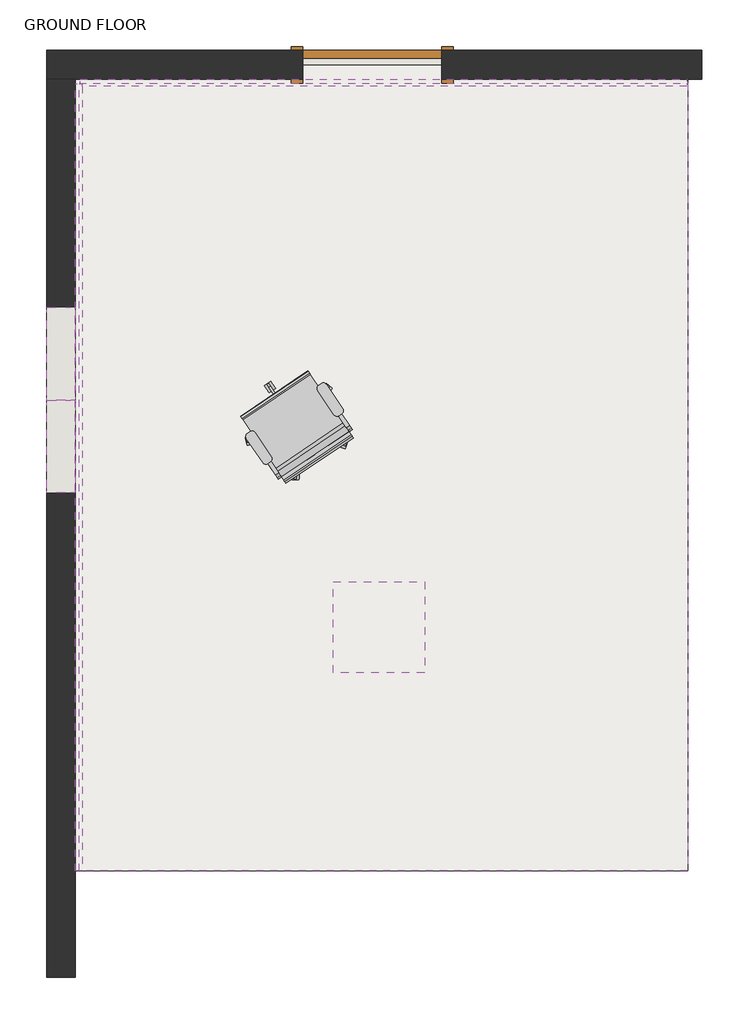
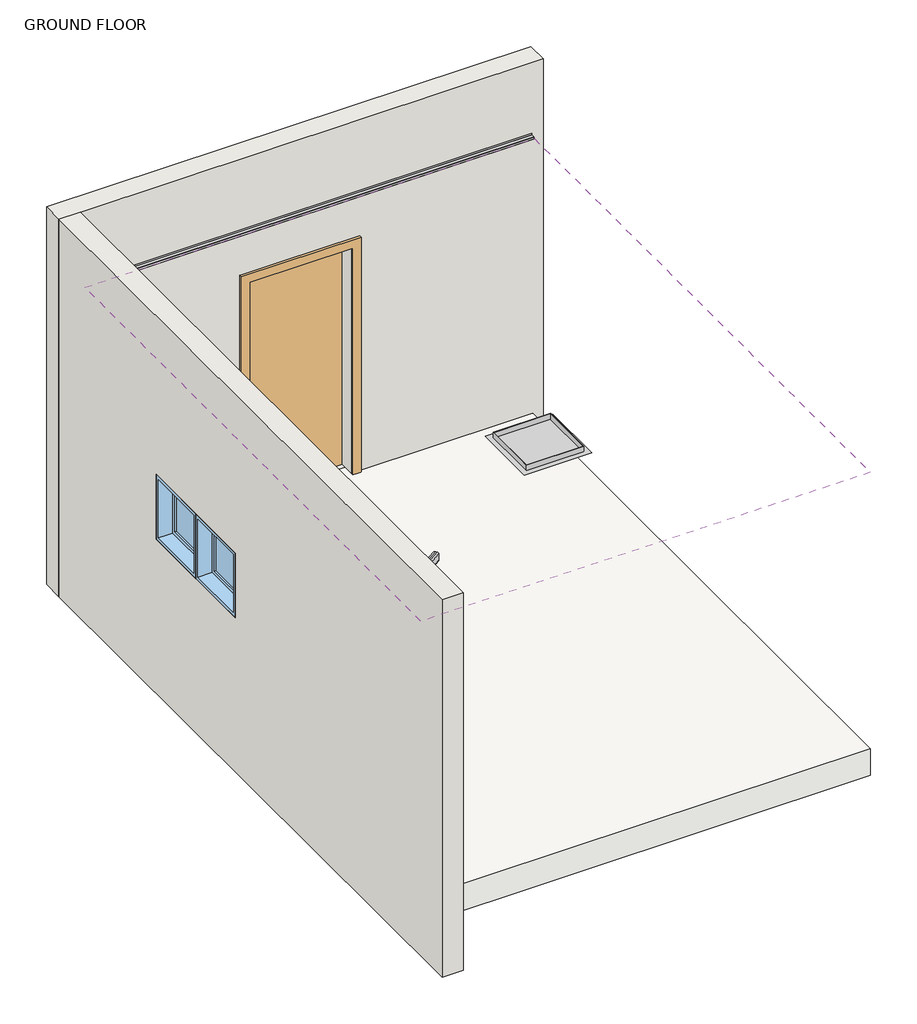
# One storey, incomplete: 3 proxies, 2 walls, 2 windows, 1 covering, 1 door, 1 furniture element, 1 slab.
"""IFC4 building model written with IfcOpenShell, lengths in millimetres."""

from ifc_helpers import new_model, si_unit, frame, origin, place, context, project, spatial, polyline, outline, extrude, faceted_brep, transform, mapped, element, save
from components import m_single_flush_0915_x_2134mm_f5238887, chair_task_arms_chair_task_arms_3b363349, m_fixed_0610_x_0610mm_09852ef8

model = new_model("IFC4")

# Units and contexts
model_context = context("Model", 3, world=origin())
ifc_project = project(units=[si_unit("LENGTHUNIT", "METRE", prefix="MILLI")], contexts=[model_context])

# Site, building, storey
site = spatial("IfcSite", under=ifc_project)
building = spatial("IfcBuilding", under=site)
storey = spatial("IfcBuildingStorey", under=building, Name="GROUND FLOOR", Elevation=0.0)

# Proxies
placement = place(None, origin())
element("IfcBuildingElementProxy", 1, Name="Ceiling_Access_HatchPanel_Parametric : Top Hung", ObjectType="Ceiling_Access_HatchPanel_Parametric : Top Hung", at=placement, inside=storey, context=model_context, shape_type="SolidModel", body=[
    faceted_brep([(122182.6212716, 2869.9489557, 2650.0), (122182.6212716, 2359.2489557, 2650.0), (122693.3212716, 2359.2489557, 2650.0), (122693.3212716, 2869.9489557, 2650.0), (122188.9712716, 2863.5989557, 2650.0), (122686.9712716, 2863.5989557, 2650.0), (122686.9712716, 2365.5989557, 2650.0), (122188.9712716, 2365.5989557, 2650.0), (122182.6212716, 2869.9489557, 2600.0), (122693.3212716, 2869.9489557, 2600.0), (122693.3212716, 2359.2489557, 2600.0), (122182.6212716, 2359.2489557, 2600.0), (122188.9712716, 2863.5989557, 2600.0), (122188.9712716, 2365.5989557, 2600.0), (122686.9712716, 2365.5989557, 2600.0), (122686.9712716, 2863.5989557, 2600.0), (122182.6212716, 2869.9489557, 2611.0), (122182.6212716, 2359.2489557, 2611.0), (122693.3212716, 2359.2489557, 2611.0), (122693.3212716, 2869.9489557, 2611.0)], [[[0, 1, 2, 3], [4, 5, 6, 7]], [[8, 9, 10, 11], [12, 13, 14, 15]], [[5, 4, 12, 15]], [[6, 5, 15, 14]], [[7, 6, 14, 13]], [[4, 7, 13, 12]], [[1, 0, 16, 8, 11, 17]], [[2, 1, 17, 11, 10, 18]], [[3, 2, 18, 10, 9, 19]], [[0, 3, 19, 9, 8, 16]]]),
    extrude(outline(polyline([(122188.9712716, 2863.5989557), (122686.9712716, 2863.5989557), (122686.9712716, 2365.5989557), (122188.9712716, 2365.5989557), (122188.9712716, 2863.5989557)])), frame((0.0, 0.0, 2593.65), z_axis=(0.0, 0.0, 1.0), x_axis=(1.0, 0.0, 0.0)), (0.0, 0.0, 1.0), 6.35),
    faceted_brep([(122188.9712716, 2863.5989557, 2600.0), (122188.9712716, 2863.5989557, 2590.475), (122686.9712716, 2863.5989557, 2590.475), (122686.9712716, 2863.5989557, 2600.0), (122686.9712716, 2365.5989557, 2590.475), (122686.9712716, 2365.5989557, 2600.0), (122188.9712716, 2365.5989557, 2590.475), (122188.9712716, 2365.5989557, 2600.0), (122725.0712716, 2901.6989557, 2590.475), (122725.0712716, 2327.4989557, 2590.475), (122150.8712716, 2327.4989557, 2590.475), (122150.8712716, 2901.6989557, 2590.475), (122138.1712716, 2914.3989557, 2600.0), (122138.1712716, 2314.7989557, 2600.0), (122737.7712716, 2314.7989557, 2600.0), (122737.7712716, 2914.3989557, 2600.0)], [[[0, 1, 2, 3]], [[3, 2, 4, 5]], [[5, 4, 6, 7]], [[8, 9, 10, 11], [1, 6, 4, 2]], [[12, 13, 14, 15], [3, 5, 7, 0]], [[7, 6, 1, 0]], [[11, 12, 15, 8]], [[8, 15, 14, 9]], [[9, 14, 13, 10]], [[10, 13, 12, 11]]]),
])
element("IfcBuildingElementProxy", 2, Name="TR02 : Pelican Systems Plaster Trim 25 x 20", ObjectType="TR02 : Pelican Systems Plaster Trim 25 x 20", at=placement, inside=storey, context=model_context, shape_type="Brep", body=[
    faceted_brep([(124460.7345529, 6217.9193804, 2635.0), (124460.7345529, 6216.9193804, 2635.0), (124460.7345529, 6216.9193804, 2620.0), (124460.7345529, 6191.9193804, 2620.0), (124460.7345529, 6191.9193804, 2611.0), (124460.7345529, 6171.9193804, 2611.0), (124460.7345529, 6171.9193804, 2610.0), (124460.7345529, 6191.9193804, 2610.0), (124460.7345529, 6191.9193804, 2599.0), (124460.7345529, 6192.9193804, 2599.0), (124460.7345529, 6192.9193804, 2619.0), (124460.7345529, 6217.9193804, 2619.0), (120472.7345529, 6217.9193804, 2635.0), (120472.7345529, 6217.9193804, 2619.0), (120472.7345529, 6192.9193804, 2619.0), (120472.7345529, 6192.9193804, 2599.0), (120472.7345529, 6191.9193804, 2599.0), (120472.7345529, 6191.9193804, 2610.0), (120472.7345529, 6187.9193804, 2610.0), (120472.7345529, 6187.9193804, 2611.0), (120472.7345529, 6191.9193804, 2611.0), (120472.7345529, 6191.9193804, 2620.0), (120472.7345529, 6216.9193804, 2620.0), (120472.7345529, 6216.9193804, 2635.0), (120488.7345529, 6171.9193804, 2610.0), (120488.7345529, 6187.9193804, 2610.0), (120488.7345529, 6171.9193804, 2611.0), (120488.7345529, 6187.9193804, 2611.0)], [[[0, 1, 2, 3, 4, 5, 6, 7, 8, 9, 10, 11]], [[12, 13, 14, 15, 16, 17, 18, 19, 20, 21, 22, 23]], [[0, 11, 13, 12]], [[11, 10, 14, 13]], [[10, 9, 15, 14]], [[9, 8, 16, 15]], [[4, 3, 21, 20]], [[3, 2, 22, 21]], [[2, 1, 23, 22]], [[1, 0, 12, 23]], [[8, 7, 17, 16]], [[7, 6, 24, 25, 18, 17]], [[6, 5, 26, 24]], [[5, 4, 20, 19, 27, 26]], [[25, 27, 19, 18]], [[27, 25, 24, 26]]]),
])
element("IfcBuildingElementProxy", 3, Name="TR02 : Pelican Systems Plaster Trim 25 x 20", ObjectType="TR02 : Pelican Systems Plaster Trim 25 x 20", at=placement, inside=storey, context=model_context, shape_type="Brep", body=[
    faceted_brep([(120442.7345529, 6187.9193804, 2635.0), (120443.7345529, 6187.9193804, 2635.0), (120443.7345529, 6187.9193804, 2620.0), (120468.7345529, 6187.9193804, 2620.0), (120468.7345529, 6187.9193804, 2611.0), (120472.7345529, 6187.9193804, 2611.0), (120488.7345529, 6187.9193804, 2611.0), (120488.7345529, 6187.9193804, 2610.0), (120472.7345529, 6187.9193804, 2610.0), (120468.7345529, 6187.9193804, 2610.0), (120468.7345529, 6187.9193804, 2599.0), (120467.7345529, 6187.9193804, 2599.0), (120467.7345529, 6187.9193804, 2619.0), (120442.7345529, 6187.9193804, 2619.0), (120442.7345529, 1012.9193804, 2635.0), (120442.7345529, 1012.9193804, 2619.0), (120467.7345529, 1012.9193804, 2619.0), (120467.7345529, 1012.9193804, 2599.0), (120468.7345529, 1012.9193804, 2599.0), (120468.7345529, 1012.9193804, 2610.0), (120488.7345529, 1012.9193804, 2610.0), (120488.7345529, 1012.9193804, 2611.0), (120468.7345529, 1012.9193804, 2611.0), (120468.7345529, 1012.9193804, 2620.0), (120443.7345529, 1012.9193804, 2620.0), (120443.7345529, 1012.9193804, 2635.0), (120488.7345529, 6171.9193804, 2610.0), (120488.7345529, 6171.9193804, 2611.0)], [[[0, 1, 2, 3, 4, 5, 6, 7, 8, 9, 10, 11, 12, 13]], [[14, 15, 16, 17, 18, 19, 20, 21, 22, 23, 24, 25]], [[13, 15, 14, 0]], [[12, 16, 15, 13]], [[11, 17, 16, 12]], [[10, 18, 17, 11]], [[3, 23, 22, 4]], [[2, 24, 23, 3]], [[1, 25, 24, 2]], [[0, 14, 25, 1]], [[9, 19, 18, 10]], [[7, 26, 20, 19, 9, 8]], [[6, 27, 21, 20, 26, 7]], [[4, 22, 21, 27, 6, 5]]]),
])

# Covering
element("IfcCovering", 4, ObjectType="_C2.3 - 12mm FLUSHPLASTER CEILING (UNDER CONCRETE SOFFIT)", at=placement, inside=storey, context=model_context, shape_type="SweptSolid", body=[
    extrude(outline(polyline([(120467.7345529, 6191.9193804), (124466.7345529, 6191.9193804), (124466.7345529, 1012.9193804), (120467.7345529, 1012.9193804), (120467.7345529, 6191.9193804)]), holes=[polyline([(122182.6212716, 2869.9489557), (122182.6212716, 2359.2489557), (122693.3212716, 2359.2489557), (122693.3212716, 2869.9489557), (122182.6212716, 2869.9489557)])]), frame((0.0, 0.0, 2600.0), z_axis=(0.0, 0.0, 1.0), x_axis=(1.0, 0.0, 0.0)), (0.0, 0.0, 1.0), 11.0),
])

# Door
m_single_flush_0915_x_2134mm_shape = m_single_flush_0915_x_2134mm_f5238887(model_context)
element("IfcDoor", 5, ObjectType="M_Single-Flush : 0915 x 2134mm", at=placement, inside=storey, context=model_context, shape_type="MappedRepresentation", body=[
    mapped(m_single_flush_0915_x_2134mm_shape, transform((122394.7345529, 6312.9193804, 0.0), x_axis=(1.0, 0.0, 0.0), y_axis=(0.0, 1.0, 0.0), z_axis=(0.0, 0.0, 1.0))),
])

# Furniture
chair_task_arms_chair_task_arms_shape = chair_task_arms_chair_task_arms_3b363349(model_context)
element("IfcFurniture", 6, ObjectType="Chair-Task Arms : Chair-Task Arms", at=placement, inside=storey, context=model_context, shape_type="MappedRepresentation", body=[
    mapped(chair_task_arms_chair_task_arms_shape, transform((121792.677586, 3836.7323612, 0.0), x_axis=(0.8290375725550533, 0.5591929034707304, 0.0), y_axis=(-0.5591929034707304, 0.8290375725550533, 0.0), z_axis=(0.0, 0.0, 1.0))),
])

# Slab
element("IfcSlab", 7, ObjectType="Generic Floor - 250mm", at=placement, inside=storey, context=model_context, shape_type="Brep", body=[
    faceted_brep([(120366.7345529, 6312.9193804, -250.0), (124466.7345529, 6312.9193804, -250.0), (124466.7345529, 6217.9193804, -250.0), (124466.7345529, 1012.9193804, -250.0), (120366.7345529, 1012.9193804, -250.0), (120366.7345529, 6217.9193804, -250.0), (120366.7345529, 6312.9193804, 0.0), (120366.7345529, 6217.9193804, 0.0), (120366.7345529, 1012.9193804, 0.0), (124466.7345529, 1012.9193804, 0.0), (124466.7345529, 6217.9193804, 0.0), (124466.7345529, 6312.9193804, 0.0), (122852.2345529, 6312.9193804, 0.0), (121937.2345529, 6312.9193804, 0.0)], [[[0, 1, 2, 3, 4, 5]], [[6, 7, 8, 9, 10, 11, 12, 13]], [[1, 0, 6, 13, 12, 11]], [[3, 2, 1, 11, 10, 9]], [[4, 3, 9, 8]], [[0, 5, 4, 8, 7, 6]]]),
])

# Walls
element("IfcWall", 8, ObjectType="190mm MAXI BLOCK- plastered", at=placement, inside=storey, context=model_context, shape_type="Brep", body=[
    faceted_brep([(124561.7345529, 6217.9193804, -250.0), (124561.7345529, 6217.9193804, 3300.0), (120442.7345529, 6217.9193804, 3300.0), (120252.7345529, 6217.9193804, 3300.0), (120252.7345529, 6217.9193804, -250.0), (120366.7345529, 6217.9193804, -250.0), (120366.7345529, 6217.9193804, 0.0), (121937.2345529, 6217.9193804, 0.0), (121937.2345529, 6217.9193804, 2134.0), (122852.2345529, 6217.9193804, 2134.0), (122852.2345529, 6217.9193804, 0.0), (124466.7345529, 6217.9193804, 0.0), (124466.7345529, 6217.9193804, -250.0), (124561.7345529, 6407.9193804, -250.0), (120252.7345529, 6407.9193804, -250.0), (120252.7345529, 6407.9193804, 3300.0), (124561.7345529, 6407.9193804, 3300.0), (121937.2345529, 6407.9193804, 0.0), (122852.2345529, 6407.9193804, 0.0), (122852.2345529, 6407.9193804, 2134.0), (121937.2345529, 6407.9193804, 2134.0), (124466.7345529, 6312.9193804, -250.0), (120366.7345529, 6312.9193804, -250.0), (121937.2345529, 6312.9193804, 0.0), (122852.2345529, 6312.9193804, 0.0), (120366.7345529, 6312.9193804, 0.0), (124466.7345529, 6312.9193804, 0.0)], [[[0, 1, 2, 3, 4, 5, 6, 7, 8, 9, 10, 11, 12]], [[13, 14, 15, 16], [17, 18, 19, 20]], [[14, 13, 0, 12, 21, 22, 5, 4]], [[1, 0, 13, 16]], [[3, 2, 1, 16, 15]], [[18, 17, 23, 24]], [[19, 18, 24, 10, 9]], [[20, 19, 9, 8]], [[17, 20, 8, 7, 23]], [[25, 23, 7, 6]], [[24, 26, 11, 10]], [[25, 22, 21, 26, 24, 23]], [[22, 25, 6, 5]], [[26, 21, 12, 11]], [[4, 3, 15, 14]]]),
])
element("IfcWall", 9, ObjectType="190mm MAXI BLOCK- plastered", at=placement, inside=storey, context=model_context, shape_type="Brep", body=[
    faceted_brep([(120442.7345529, 312.9193804, -250.0), (120442.7345529, 6217.9193804, -250.0), (120442.7345529, 6217.9193804, 3300.0), (120442.7345529, 312.9193804, 3300.0), (120442.7345529, 3497.9193804, 1810.0), (120442.7345529, 4717.9193804, 1810.0), (120442.7345529, 4717.9193804, 1200.0), (120442.7345529, 3497.9193804, 1200.0), (120252.7345529, 6217.9193804, -250.0), (120252.7345529, 312.9193804, -250.0), (120252.7345529, 312.9193804, 3300.0), (120252.7345529, 6217.9193804, 3300.0), (120252.7345529, 3497.9193804, 1200.0), (120252.7345529, 4717.9193804, 1200.0), (120252.7345529, 4717.9193804, 1810.0), (120252.7345529, 3497.9193804, 1810.0), (120366.7345529, 6217.9193804, -250.0)], [[[0, 1, 2, 3], [4, 5, 6, 7]], [[8, 9, 10, 11], [12, 13, 14, 15]], [[1, 0, 9, 8, 16]], [[3, 2, 11, 10]], [[0, 3, 10, 9]], [[2, 1, 16, 8, 11]], [[14, 13, 6, 5]], [[14, 5, 4, 15]], [[12, 7, 6, 13]], [[15, 4, 7, 12]]]),
])

# Windows
m_fixed_0610_x_0610mm_shape = m_fixed_0610_x_0610mm_09852ef8(model_context)
element("IfcWindow", 10, ObjectType="M_Fixed : 0610 x 0610mm", at=placement, inside=storey, context=model_context, shape_type="MappedRepresentation", body=[
    mapped(m_fixed_0610_x_0610mm_shape, transform((120334.7345529, 4412.9193804, 285.0), x_axis=(0.0, -1.0, 0.0), y_axis=(1.0, 0.0, 0.0), z_axis=(0.0, 0.0, 1.0))),
])
element("IfcWindow", 11, ObjectType="M_Fixed : 0610 x 0610mm", at=placement, inside=storey, context=model_context, shape_type="MappedRepresentation", body=[
    mapped(m_fixed_0610_x_0610mm_shape, transform((120334.7345529, 3802.9193804, 285.0), x_axis=(0.0, -1.0, 0.0), y_axis=(1.0, 0.0, 0.0), z_axis=(0.0, 0.0, 1.0))),
])

save(model, "model.ifc")
